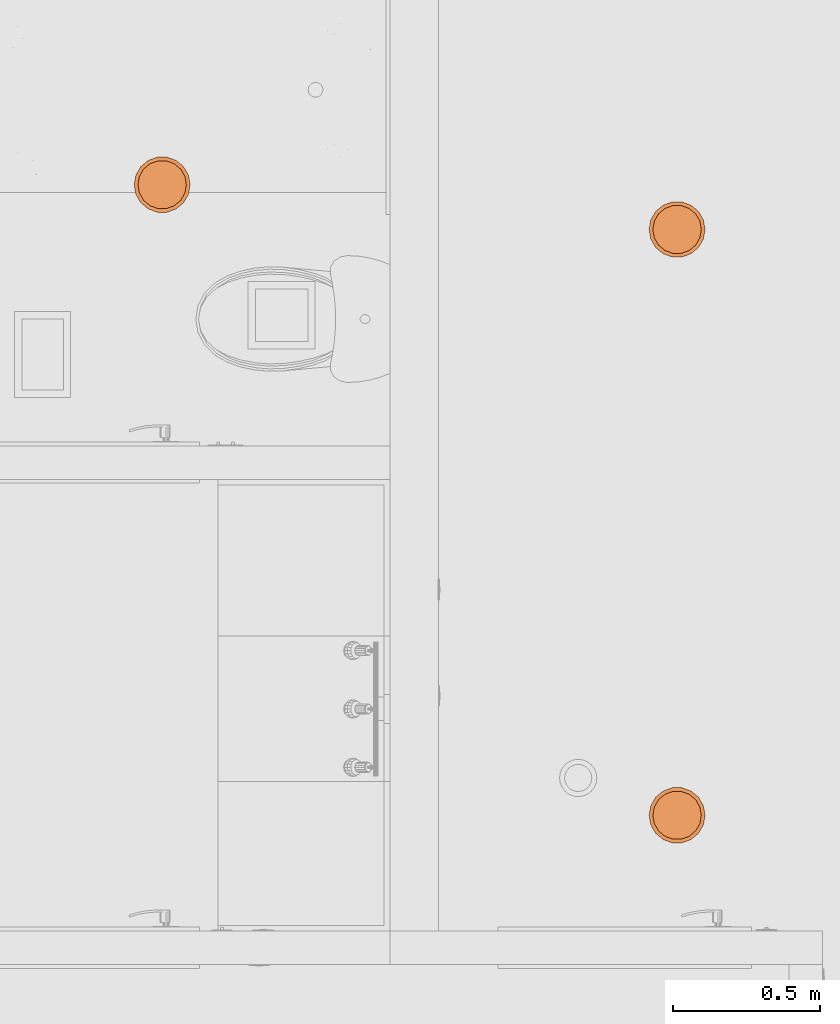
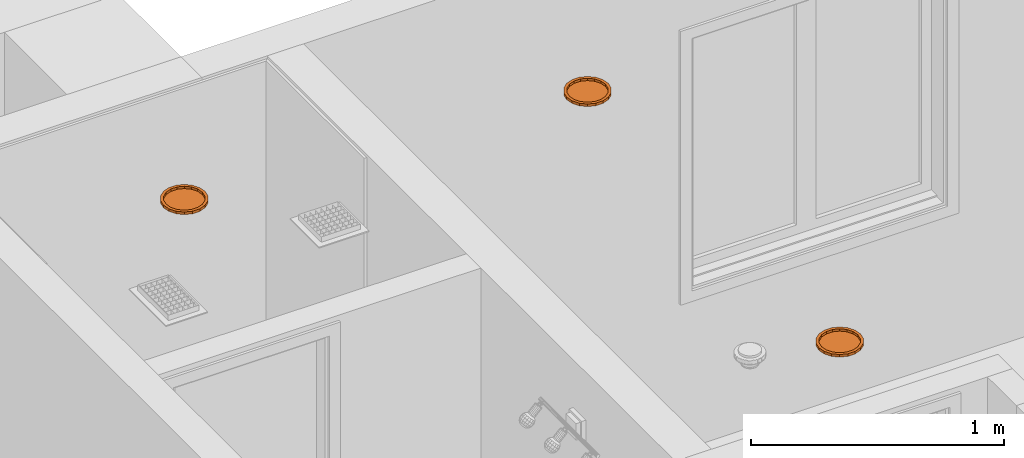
# One storey, part 32 of 48: 3 proxies.
"""IFC2X3 building model written with IfcOpenShell, lengths in inches."""

import ifcopenshell
import ifcopenshell.guid

model = None  # the IFC model being written
_history = None  # IfcOwnerHistory: only IFC2X3 demands one
_inside = {}  # id of a spatial element -> (the spatial element, [elements in it])
_under = {}  # id of a project, library or spatial element -> (it, [spatial elements below it])
_declared = {}  # id of a project -> (the project, [libraries it declares])
_typed = {}  # id of a type object -> (the type object, [elements of that type])
_made_of = {}  # id of a material, layer set ... -> (it, [elements and type objects made of it])


def new_model(schema):
    """Start an empty IFC model of exactly this schema.

    Asked for "IFC4X3", IfcOpenShell would pick the latest addendum, in which some entities
    have other attributes; the version numbers below select the first issue.
    IFC2X3 requires an IfcOwnerHistory on every rooted entity: one is made here for all.
    """
    global model, _history
    if schema == "IFC4X3":
        model = ifcopenshell.file(schema_version=(4, 3, 0, 0))
    else:
        model = ifcopenshell.file(schema=schema)
    _inside.clear()
    _under.clear()
    _declared.clear()
    _typed.clear()
    _made_of.clear()
    _history = None
    if model.schema == "IFC2X3":
        org = make("IfcOrganization", Name="unknown")
        user = make(
            "IfcPersonAndOrganization",
            ThePerson=make("IfcPerson", FamilyName="unknown"),
            TheOrganization=org,
        )
        app = make(
            "IfcApplication",
            ApplicationDeveloper=org,
            Version="unknown",
            ApplicationFullName="unknown",
            ApplicationIdentifier="unknown",
        )
        _history = make(
            "IfcOwnerHistory",
            OwningUser=user,
            OwningApplication=app,
            ChangeAction="ADDED",
            CreationDate=0,
        )
    return model


def make(cls, **values):
    """One entity of the class cls with the attributes given. An attribute that is None is left unset."""
    return model.create_entity(
        cls, **{name: value for name, value in values.items() if value is not None}
    )


def entity(cls, *values):
    """Any entity or typed value of the class cls, its attributes in the order of the schema. None: left unset."""
    e = model.create_entity(cls)
    for i, value in enumerate(values):
        if value is not None:
            e[i] = value
    return e


def rooted(cls, **values):
    """An entity with a GlobalId (a new one), such as an element, a storey or a relation."""
    return make(cls, GlobalId=ifcopenshell.guid.new(), OwnerHistory=_history, **values)


def si_unit(unit_type, name, prefix=None):
    """IfcSIUnit, for example si_unit("LENGTHUNIT", "METRE", prefix="MILLI")."""
    return make("IfcSIUnit", UnitType=unit_type, Prefix=prefix, Name=name)


def converted_unit(unit_type, name, factor, base, dimensions=None, offset=None):
    """IfcConversionBasedUnit, such as the inch: factor (a typed value) times the base unit."""
    return make(
        "IfcConversionBasedUnit"
        if offset is None
        else "IfcConversionBasedUnitWithOffset",
        ConversionOffset=offset,
        Dimensions=None
        if dimensions is None
        else entity("IfcDimensionalExponents", *dimensions),
        UnitType=unit_type,
        Name=name,
        ConversionFactor=make(
            "IfcMeasureWithUnit", ValueComponent=factor, UnitComponent=base
        ),
    )


def derived_unit(unit_type, elements):
    """IfcDerivedUnit: a product of units, each with its exponent."""
    return make(
        "IfcDerivedUnit",
        Elements=[
            make("IfcDerivedUnitElement", Unit=unit, Exponent=power)
            for unit, power in elements
        ],
        UnitType=unit_type,
    )


def money_unit(currency):
    """IfcMonetaryUnit."""
    return make("IfcMonetaryUnit", Currency=currency)


def assignment(units):
    """IfcUnitAssignment: the units of a project."""
    return None if units is None else make("IfcUnitAssignment", Units=units)


def point(xyz):
    """IfcCartesianPoint."""
    return None if xyz is None else make("IfcCartesianPoint", Coordinates=xyz)


def direction(xyz):
    """IfcDirection."""
    return None if xyz is None else make("IfcDirection", DirectionRatios=xyz)


def frame(location, z_axis=None, x_axis=None):
    """IfcAxis2Placement3D, a coordinate frame: its origin and axes. An axis left out is left unset."""
    return make(
        "IfcAxis2Placement3D",
        Location=point(location),
        Axis=direction(z_axis),
        RefDirection=direction(x_axis),
    )


def origin_with_axes():
    """The frame at (0, 0, 0) with the z axis (0, 0, 1) and the x axis (1, 0, 0) written out."""
    return frame((0.0, 0.0, 0.0), z_axis=(0.0, 0.0, 1.0), x_axis=(1.0, 0.0, 0.0))


def place(relative_to, where):
    """IfcLocalPlacement: puts the frame where relative to a parent placement (None: the world)."""
    return make(
        "IfcLocalPlacement", PlacementRelTo=relative_to, RelativePlacement=where
    )


def context(
    kind, dimensions, precision=None, world=None, true_north=None, identifier=None
):
    """IfcGeometricRepresentationContext, for example the 3D "Model" context."""
    return make(
        "IfcGeometricRepresentationContext",
        ContextIdentifier=identifier,
        ContextType=kind,
        CoordinateSpaceDimension=dimensions,
        Precision=precision,
        WorldCoordinateSystem=world,
        TrueNorth=true_north,
    )


def subcontext(parent, identifier, kind, view, scale=None):
    """IfcGeometricRepresentationSubContext, for example "Body" below "Model"."""
    return make(
        "IfcGeometricRepresentationSubContext",
        ContextIdentifier=identifier,
        ContextType=kind,
        ParentContext=parent,
        TargetScale=scale,
        TargetView=view,
    )


def project(units=None, contexts=None):
    """IfcProject with its units and contexts."""
    return rooted(
        "IfcProject",
        Name="project",
        RepresentationContexts=contexts,
        UnitsInContext=assignment(units),
    )


def spatial(cls, under=None, at=None, **own):
    """A site, building, storey or space (cls), placed at a placement, below another one or the project."""
    s = rooted(cls, ObjectPlacement=at, **own)
    if under is not None:
        _under.setdefault(under.id(), (under, []))[1].append(s)
    return s


def faces_of(points, faces, orient=None, outer=None):
    """IfcFace entities. A face is a list of loops; a loop is a list of indices into points, from 0.

    orient and outer hold one flag for each loop. By default every Orientation is true, the
    first loop of a face is its IfcFaceOuterBound and the others are IfcFaceBound.
    """
    made = []
    for i, loops in enumerate(faces):
        bounds = []
        for j, loop in enumerate(loops):
            is_outer = j == 0 if outer is None else outer[i][j]
            bounds.append(
                make(
                    "IfcFaceOuterBound" if is_outer else "IfcFaceBound",
                    Bound=make("IfcPolyLoop", Polygon=[points[k] for k in loop]),
                    Orientation=True if orient is None else orient[i][j],
                )
            )
        made.append(make("IfcFace", Bounds=bounds))
    return made


def open_shell(faces, orient=None, outer=None):
    """The faces of one IfcOpenShell. surface_model builds it on its shared points."""
    return ("IfcOpenShell", faces, orient, outer)


def faceted_brep(points, faces, orient=None, outer=None, voids=None):
    """IfcFacetedBrep: a solid bounded by flat faces; with voids (closed shells), ...WithVoids."""
    shared = [point(p) for p in points]
    hull = make("IfcClosedShell", CfsFaces=faces_of(shared, faces, orient, outer))
    if voids is None:
        return make("IfcFacetedBrep", Outer=hull)
    return make(
        "IfcFacetedBrepWithVoids",
        Outer=hull,
        Voids=[
            make(cls, CfsFaces=faces_of(shared, fs, o, b)) for cls, fs, o, b in voids
        ],
    )


def surface_model(cls, points, shells):
    """IfcFaceBasedSurfaceModel or IfcShellBasedSurfaceModel (cls): surfaces that need not close."""
    shared = [point(p) for p in points]
    made = [make(c, CfsFaces=faces_of(shared, fs, o, b)) for c, fs, o, b in shells]
    if cls == "IfcFaceBasedSurfaceModel":
        return make(cls, FbsmFaces=made)
    return make(cls, SbsmBoundary=made)


def shape(context_of_items, identifier, shape_type, items):
    """IfcShapeRepresentation: the items that make up one representation, for example the "Body"."""
    return make(
        "IfcShapeRepresentation",
        ContextOfItems=context_of_items,
        RepresentationIdentifier=identifier,
        RepresentationType=shape_type,
        Items=items,
    )


def source(mapping_origin, context_of_items, identifier, shape_type, items):
    """IfcRepresentationMap: a shape defined once, which mapped items show again and again."""
    return make(
        "IfcRepresentationMap",
        MappingOrigin=mapping_origin,
        MappedRepresentation=shape(context_of_items, identifier, shape_type, items),
    )


def transform(
    local_origin,
    x_axis=None,
    y_axis=None,
    z_axis=None,
    scale=None,
    scale2=None,
    scale3=None,
    uniform=True,
):
    """IfcCartesianTransformationOperator3D, or its non-uniform kind. x_axis, y_axis, z_axis: its Axis1, 2, 3."""
    if uniform:
        return make(
            "IfcCartesianTransformationOperator3D",
            Axis1=direction(x_axis),
            Axis2=direction(y_axis),
            LocalOrigin=point(local_origin),
            Scale=scale,
            Axis3=direction(z_axis),
        )
    return make(
        "IfcCartesianTransformationOperator3DnonUniform",
        Axis1=direction(x_axis),
        Axis2=direction(y_axis),
        LocalOrigin=point(local_origin),
        Scale=scale,
        Axis3=direction(z_axis),
        Scale2=scale2,
        Scale3=scale3,
    )


def mapped(mapping_source, mapping_target):
    """IfcMappedItem: shows the shape of a source again, moved by a transform."""
    return make(
        "IfcMappedItem", MappingSource=mapping_source, MappingTarget=mapping_target
    )


def made_of(thing, what):
    """Note that an element or type object is made of a material, layer set ...; save() writes the relation."""
    if what is not None:
        _made_of.setdefault(what.id(), (what, []))[1].append(thing)
    return thing


def type_object(cls, material=None, **own):
    """A type object (cls), such as IfcWallType, which elements share."""
    return made_of(rooted(cls, **own), material)


def element(
    cls,
    number,
    at=None,
    inside=None,
    cuts=None,
    type_object=None,
    material=None,
    context=None,
    identifier="Body",
    shape_type=None,
    held_by="IfcProductDefinitionShape",
    body=None,
    shapes=None,
    **own,
):
    """One element of the class cls, such as IfcWall. Its Tag is "e" and its number.

    at: its placement. inside: the storey or other place that contains it. cuts: it is an
    opening in that element (IfcRelVoidsElement). A single representation is given by context,
    identifier, shape_type and body (its items); several are given by shapes. held_by: the class
    of the entity that holds the representations. save() writes the other relations.
    """
    e = rooted(cls, Tag="e%d" % number, ObjectPlacement=at, **own)
    if body is not None:
        shapes = [shape(context, identifier, shape_type, body)]
    if shapes is not None:
        e.Representation = make(held_by, Representations=shapes)
    if inside is not None:
        _inside.setdefault(inside.id(), (inside, []))[1].append(e)
    if cuts is not None:
        rooted(
            "IfcRelVoidsElement", RelatingBuildingElement=cuts, RelatedOpeningElement=e
        )
    if type_object is not None:
        _typed.setdefault(type_object.id(), (type_object, []))[1].append(e)
    return made_of(e, material)


def aggregate(whole, parts):
    """IfcRelAggregates: a whole, such as a stair, and the parts it consists of."""
    return rooted("IfcRelAggregates", RelatingObject=whole, RelatedObjects=parts)


def save(model, path):
    """Write the relations noted so far, then the file.

    IfcRelAggregates (storeys below a building ...), IfcRelContainedInSpatialStructure (elements
    in a storey), IfcRelDefinesByType, IfcRelAssociatesMaterial and IfcRelDeclares: one each for
    every whole, place, type object, material and project.
    """
    for whole, parts in _under.values():
        aggregate(whole, parts)
    for where, things in _inside.values():
        rooted(
            "IfcRelContainedInSpatialStructure",
            RelatedElements=things,
            RelatingStructure=where,
        )
    for kind, things in _typed.values():
        rooted("IfcRelDefinesByType", RelatedObjects=things, RelatingType=kind)
    for what, things in _made_of.values():
        rooted("IfcRelAssociatesMaterial", RelatedObjects=things, RelatingMaterial=what)
    for by, libraries in _declared.values():
        rooted("IfcRelDeclares", RelatingContext=by, RelatedDefinitions=libraries)
    model.write(path)


model = new_model("IFC2X3")

# Units and contexts
model_context = context("Model", 3, precision=0.00039370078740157, world=origin_with_axes(), true_north=direction((0.0, 1.0)))
plan_context = context("Plan", 3, precision=0.00039370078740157, world=origin_with_axes(), true_north=direction((0.0, 1.0)))
body_context = subcontext(model_context, "Body", "Model", "MODEL_VIEW")
ifc_project = project(units=[converted_unit("LENGTHUNIT", "INCH", entity("IfcPositiveLengthMeasure", 0.0254), si_unit("LENGTHUNIT", "METRE"), dimensions=[1, 0, 0, 0, 0, 0, 0]), converted_unit("AREAUNIT", "SQUARE_FOOT", entity("IfcPositiveLengthMeasure", 0.09290304), si_unit("AREAUNIT", "SQUARE_METRE"), dimensions=[2, 0, 0, 0, 0, 0, 0]), si_unit("PLANEANGLEUNIT", "RADIAN"), si_unit("SOLIDANGLEUNIT", "STERADIAN"), money_unit("USD"), converted_unit("TIMEUNIT", "Year", entity("IfcTimeMeasure", 31557600.0), si_unit("TIMEUNIT", "SECOND"), dimensions=[0, 0, 1, 0, 0, 0, 0]), si_unit("MASSUNIT", "GRAM", prefix="KILO"), si_unit("THERMODYNAMICTEMPERATUREUNIT", "DEGREE_CELSIUS"), si_unit("LUMINOUSINTENSITYUNIT", "LUMEN"), si_unit("ENERGYUNIT", "JOULE", prefix="MEGA"), derived_unit("SPECIFICHEATCAPACITYUNIT", [(si_unit("ENERGYUNIT", "JOULE"), 1), (si_unit("MASSUNIT", "GRAM", prefix="KILO"), -1), (si_unit("THERMODYNAMICTEMPERATUREUNIT", "KELVIN"), -1)])], contexts=[model_context, plan_context])

# Site, building, storey
site_placement = place(None, origin_with_axes())
site = spatial("IfcSite", under=ifc_project, at=site_placement, Name="Site", CompositionType="ELEMENT")
building_placement = place(site_placement, origin_with_axes())
building = spatial("IfcBuilding", under=site, at=building_placement, Name="Building", CompositionType="ELEMENT")
storey_placement = place(building_placement, origin_with_axes())
storey = spatial("IfcBuildingStorey", under=building, at=storey_placement, Name="First Floor", CompositionType="ELEMENT", Elevation=0.0)

# Proxies
building_element_proxy_type = type_object("IfcBuildingElementProxyType", Name="Recessed Spot", PredefinedType="NOTDEFINED")
shared_shape = source(origin_with_axes(), body_context, "Body", "SurfaceModel", [
    faceted_brep([(3.749999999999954, 0.0, -0.4999999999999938), (3.523847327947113, 1.282575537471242, -0.4999999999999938), (3.523847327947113, 1.282575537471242, 0.0), (3.749999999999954, 0.0, 0.0), (3.523847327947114, -1.282575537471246, -0.4999999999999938), (2.872666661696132, -2.410453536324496, -0.4999999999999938), (1.874999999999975, -3.247595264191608, -0.4999999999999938), (0.6511806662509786, -3.693029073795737, -0.4999999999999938), (-0.6511806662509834, -3.693029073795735, -0.4999999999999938), (-1.87499999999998, -3.247595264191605, -0.4999999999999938), (-2.872666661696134, -2.410453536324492, -0.4999999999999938), (-3.523847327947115, -1.282575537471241, -0.4999999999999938), (-3.749999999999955, 0.0, -0.4999999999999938), (-3.523847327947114, 1.282575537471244, -0.4999999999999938), (-2.872666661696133, 2.410453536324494, -0.4999999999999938), (-1.874999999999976, 3.247595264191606, -0.4999999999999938), (-0.6511806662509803, 3.693029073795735, -0.4999999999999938), (0.6511806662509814, 3.693029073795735, -0.4999999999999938), (1.874999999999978, 3.247595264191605, -0.4999999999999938), (2.872666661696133, 2.410453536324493, -0.4999999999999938), (3.24999999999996, 0.0, -0.4999999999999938), (3.054001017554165, 1.11156546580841, -0.4999999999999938), (2.489644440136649, 2.089059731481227, -0.4999999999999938), (1.62499999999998, 2.814582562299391, -0.4999999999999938), (0.5643565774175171, 3.200625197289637, -0.4999999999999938), (-0.5643565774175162, 3.200625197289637, -0.4999999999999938), (-1.62499999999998, 2.814582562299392, -0.4999999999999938), (-2.489644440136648, 2.089059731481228, -0.4999999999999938), (-3.054001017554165, 1.111565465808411, -0.4999999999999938), (-3.24999999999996, 0.0, -0.4999999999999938), (-3.054001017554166, -1.111565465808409, -0.4999999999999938), (-2.48964444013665, -2.089059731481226, -0.4999999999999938), (-1.624999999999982, -2.814582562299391, -0.4999999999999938), (-0.5643565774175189, -3.200625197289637, -0.4999999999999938), (0.5643565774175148, -3.200625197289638, -0.4999999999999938), (1.624999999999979, -2.814582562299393, -0.4999999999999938), (2.489644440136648, -2.08905973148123, -0.4999999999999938), (3.054001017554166, -1.111565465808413, -0.4999999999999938), (2.872666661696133, 2.410453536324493, 0.0), (1.874999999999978, 3.247595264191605, 0.0), (0.6511806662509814, 3.693029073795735, 0.0), (-0.6511806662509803, 3.693029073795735, 0.0), (-1.874999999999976, 3.247595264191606, 0.0), (-2.872666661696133, 2.410453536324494, 0.0), (-3.523847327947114, 1.282575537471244, 0.0), (-3.749999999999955, 0.0, 0.0), (-3.523847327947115, -1.282575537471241, 0.0), (-2.872666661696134, -2.410453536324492, 0.0), (-1.87499999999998, -3.247595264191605, 0.0), (-0.6511806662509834, -3.693029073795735, 0.0), (0.6511806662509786, -3.693029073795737, 0.0), (1.874999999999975, -3.247595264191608, 0.0), (2.872666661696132, -2.410453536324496, 0.0), (3.523847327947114, -1.282575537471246, 0.0), (3.24999999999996, 0.0, 0.0), (3.054001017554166, -1.111565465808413, 0.0), (2.489644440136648, -2.08905973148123, 0.0), (1.624999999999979, -2.814582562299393, 0.0), (0.5643565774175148, -3.200625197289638, 0.0), (-0.5643565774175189, -3.200625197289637, 0.0), (-1.624999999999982, -2.814582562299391, 0.0), (-2.48964444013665, -2.089059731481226, 0.0), (-3.054001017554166, -1.111565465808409, 0.0), (-3.24999999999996, 0.0, 0.0), (-3.054001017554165, 1.111565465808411, 0.0), (-2.489644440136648, 2.089059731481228, 0.0), (-1.62499999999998, 2.814582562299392, 0.0), (-0.5643565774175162, 3.200625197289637, 0.0), (0.5643565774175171, 3.200625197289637, 0.0), (1.62499999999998, 2.814582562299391, 0.0), (2.489644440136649, 2.089059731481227, 0.0), (3.054001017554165, 1.11156546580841, 0.0)], [[[0, 1, 2, 3]], [[0, 4, 5, 6, 7, 8, 9, 10, 11, 12, 13, 14, 15, 16, 17, 18, 19, 1], [20, 21, 22, 23, 24, 25, 26, 27, 28, 29, 30, 31, 32, 33, 34, 35, 36, 37]], [[1, 19, 38, 2]], [[3, 2, 38, 39, 40, 41, 42, 43, 44, 45, 46, 47, 48, 49, 50, 51, 52, 53], [54, 55, 56, 57, 58, 59, 60, 61, 62, 63, 64, 65, 66, 67, 68, 69, 70, 71]], [[4, 0, 3, 53]], [[5, 4, 53, 52]], [[6, 5, 52, 51]], [[7, 6, 51, 50]], [[8, 7, 50, 49]], [[9, 8, 49, 48]], [[10, 9, 48, 47]], [[11, 10, 47, 46]], [[12, 11, 46, 45]], [[13, 12, 45, 44]], [[14, 13, 44, 43]], [[15, 14, 43, 42]], [[16, 15, 42, 41]], [[17, 16, 41, 40]], [[18, 17, 40, 39]], [[19, 18, 39, 38]], [[21, 20, 54, 71]], [[22, 21, 71, 70]], [[23, 22, 70, 69]], [[24, 23, 69, 68]], [[25, 24, 68, 67]], [[26, 25, 67, 66]], [[27, 26, 66, 65]], [[28, 27, 65, 64]], [[29, 28, 64, 63]], [[30, 29, 63, 62]], [[31, 30, 62, 61]], [[32, 31, 61, 60]], [[33, 32, 60, 59]], [[34, 33, 59, 58]], [[35, 34, 58, 57]], [[36, 35, 57, 56]], [[37, 36, 56, 55]], [[20, 37, 55, 54]]]),
    surface_model("IfcShellBasedSurfaceModel", [(3.24999999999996, 0.0, -0.4460629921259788), (3.054001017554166, -1.111565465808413, -0.4460629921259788), (2.489644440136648, -2.08905973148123, -0.4460629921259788), (1.624999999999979, -2.814582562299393, -0.4460629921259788), (0.5643565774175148, -3.200625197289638, -0.4460629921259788), (-0.5643565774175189, -3.200625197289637, -0.4460629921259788), (-1.624999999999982, -2.814582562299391, -0.4460629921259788), (-2.48964444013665, -2.089059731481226, -0.4460629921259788), (-3.054001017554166, -1.111565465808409, -0.4460629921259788), (-3.24999999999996, 0.0, -0.4460629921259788), (-3.054001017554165, 1.111565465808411, -0.4460629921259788), (-2.489644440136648, 2.089059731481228, -0.4460629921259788), (-1.62499999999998, 2.814582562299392, -0.4460629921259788), (-0.5643565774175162, 3.200625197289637, -0.4460629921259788), (0.5643565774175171, 3.200625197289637, -0.4460629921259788), (1.62499999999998, 2.814582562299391, -0.4460629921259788), (2.489644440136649, 2.089059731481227, -0.4460629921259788), (3.054001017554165, 1.11156546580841, -0.4460629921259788)], [open_shell([[[0, 1, 2, 3, 4, 5, 6, 7, 8, 9, 10, 11, 12, 13, 14, 15, 16, 17]]])]),
])
for number, where, z_axis, x_axis, name in (
    (1, (-18.99952807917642, 520.4999999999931, 100.9999999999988), (0.0, 0.0, 1.0), (1.0, 0.0, 0.0), "L-03"),
    (2, (-18.99952807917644, 441.999999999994, 100.9999999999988), (0.0, 0.0, 1.0), (1.0, 0.0, 0.0), "L-03"),
    (3, (-87.99999999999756, 526.5002460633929, 100.9999999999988), (0.0, 0.0, 1.0), (1.0, 0.0, 0.0), "L-03"),
):
    element("IfcBuildingElementProxy", number, at=place(storey_placement, frame(where, z_axis=z_axis, x_axis=x_axis)), inside=storey, type_object=building_element_proxy_type, Name=name, context=body_context, shape_type="MappedRepresentation", body=[
        mapped(shared_shape, transform((0.0, 0.0, 0.0))),
    ])

save(model, "model.ifc")
